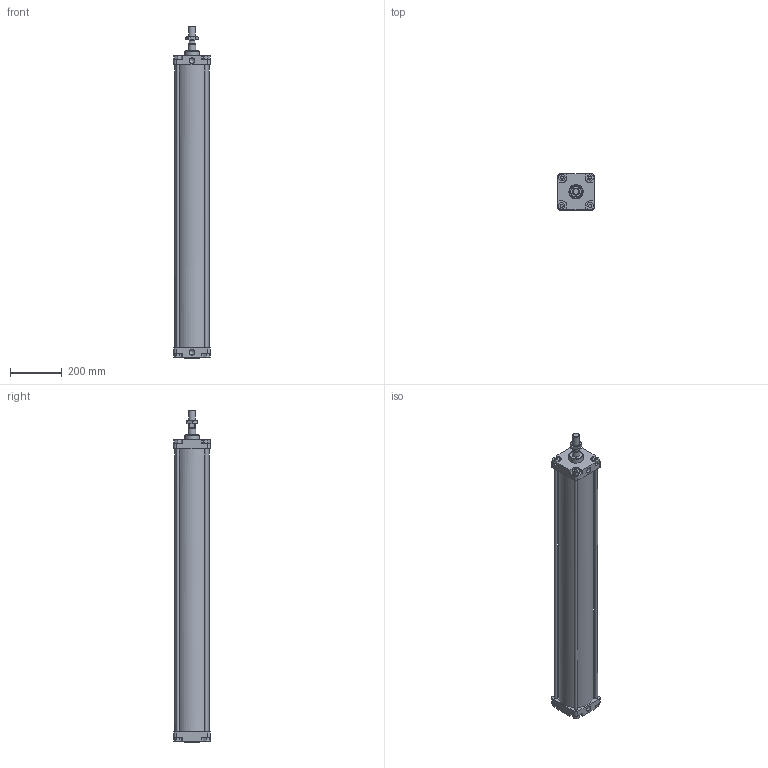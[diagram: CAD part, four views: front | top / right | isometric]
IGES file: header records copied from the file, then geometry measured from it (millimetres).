
Global section: file name: 1305_125_1000_01A; native system: Autodesk Inventor 2014; preprocessor: unknown; author: A. Manieri; date: 20161124.143420; units: millimetre
Bounding box: 140 x 140 x 1286 mm (x, y, z)
Volume: 5571575.2 mm3; surface area: 1379020.7 mm2
Topology: 9 solids, 9 shells, 175 faces, 440 edges, 295 vertices
Faces by surface type: bspline 175
